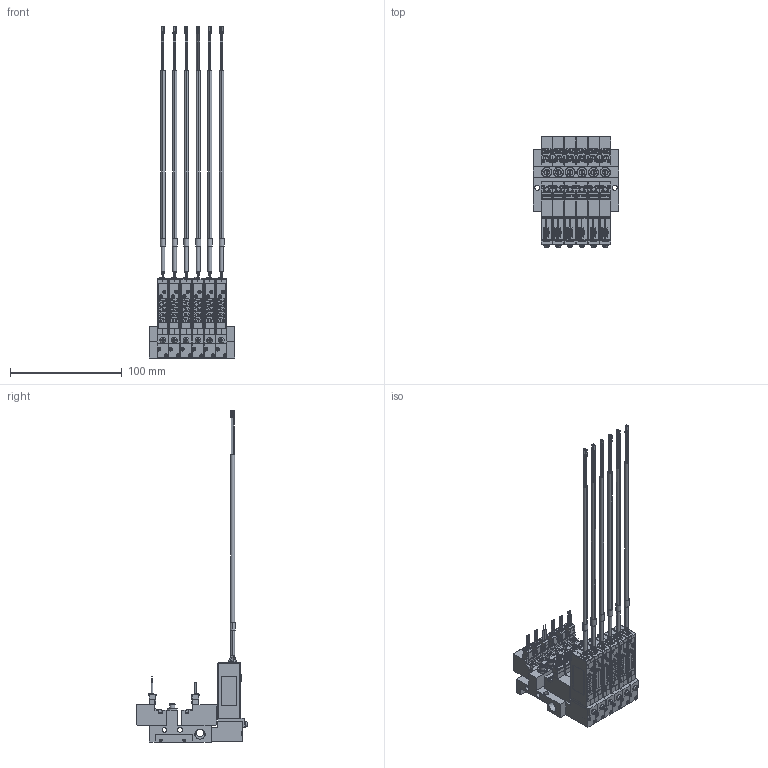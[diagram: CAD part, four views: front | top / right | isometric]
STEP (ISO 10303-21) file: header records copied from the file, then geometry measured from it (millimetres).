
FILE_DESCRIPTION(('STEP AP203'),'1');
FILE_NAME('1-L-4EZ-M06-V9.stp','2025-05-09T01:27:07',(' '),(' '),'Spatial InterOp 3D',' ',' ');
FILE_SCHEMA(('CONFIG_CONTROL_DESIGN'));
Length unit declared in the file: millimetre
Products named in the file (176): PV1※1-L-4EZ-M06-V9; BODY; PLATE; NEEDLE; BOLT; SOLENOID VALVE VOLTAGE PV; 42; 45; 48; 51; SOLENOID VALVE PV101-W; BRAKET(MPS-V9  PV-L용)NEW; BRAKET; MPS-V9AC.ics; __1; MPS-V9AC; MSBR-1_1; MSBR-4_1; MSBR-7_1; MSBR-21_1; MSBR-24_1; MSBR-25_1; MSBR-26_1; MSBR-27_1; MSBR-28_1; MSBR-29_1
Assembly tree (175 placements, depth 5):
  PV1※1-L-4EZ-M06-V9
    BODY
    PLATE
    PLATE
    NEEDLE
    BOLT
    BOLT
    BOLT
    BOLT
    BOLT
    BOLT
    SOLENOID VALVE VOLTAGE PV
      42
      45
      48
      51
    NEEDLE
    SOLENOID VALVE VOLTAGE PV
      42
      45
      48
      51
    NEEDLE
    SOLENOID VALVE VOLTAGE PV
      42
      45
      48
      51
    PLATE
    BOLT
    BOLT
    BOLT
    PLATE
    BOLT
    BOLT
    BOLT
    NEEDLE
    SOLENOID VALVE VOLTAGE PV
      42
      45
      48
      51
    NEEDLE
    SOLENOID VALVE VOLTAGE PV
      42
      45
      48
      51
    PLATE
    BOLT
    BOLT
    BOLT
    SOLENOID VALVE VOLTAGE PV
      42
      45
      48
      51
    NEEDLE
    PLATE
    BOLT
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Bounding box: 76.5 x 99.29 x 297.25 mm (x, y, z)
Volume: 172729.9 mm3; surface area: 147497.3 mm2
Topology: 145 solids, 199 shells, 7273 faces, 19772 edges, 13325 vertices
Faces by surface type: plane 5674, cylinder 1219, torus 138, bspline 90, cone 68, extrusion 60, sphere 24
Full cylindrical faces by diameter (mm): 1.4 x18, 2 x18, 2.3 x12, 2.5 x6, 3 x42, 3.5 x6, 4.2 x14, 4.5 x2, 5 x12, 6.5 x1, 8.797 x2, 9 x6
Entity records: 238812 total; most frequent: CARTESIAN_POINT 45959, ORIENTED_EDGE 38180, DIRECTION 36998, EDGE_CURVE 19318, VECTOR 15024, LINE 14964, VERTEX_POINT 13168, AXIS2_PLACEMENT_3D 10987
